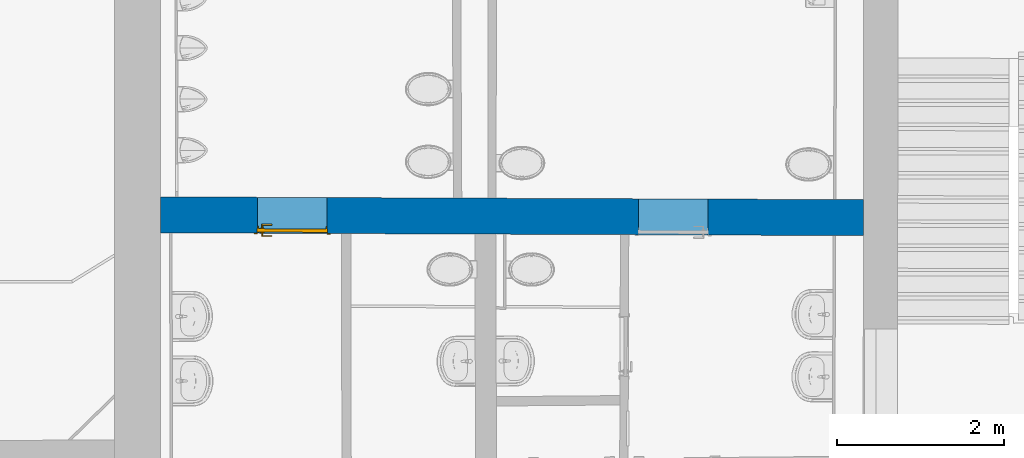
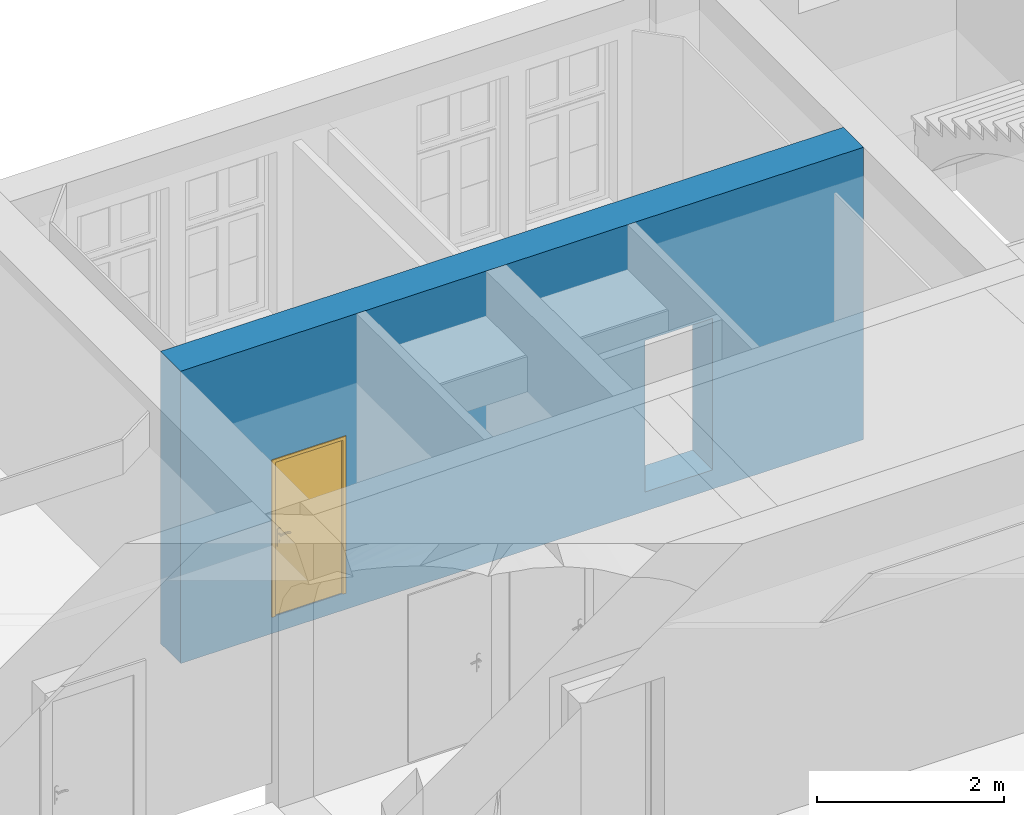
# One storey, part 82 of 158: 1 door, 1 wall, 2 openings.
"""IFC2X3 building model written with IfcOpenShell, lengths in metres."""

from ifc_helpers import new_model, entity, si_unit, converted_unit, derived_unit, money_unit, direction, frame, origin_with_axes, origin_2d_with_axis, place, context, subcontext, project, spatial, polyline, rectangle, outline, extrude, boolean, faceted_brep, material, type_object, element, fill, save


model = new_model("IFC2X3")

# Units and contexts
model_context = context("Model", 3, precision=1e-05, world=origin_with_axes(), true_north=direction((0.0, 1.0)))
body_context = subcontext(model_context, "Body", "Model", "MODEL_VIEW")
ifc_project = project(units=[si_unit("LENGTHUNIT", "METRE"), si_unit("AREAUNIT", "SQUARE_METRE"), si_unit("VOLUMEUNIT", "CUBIC_METRE"), converted_unit("PLANEANGLEUNIT", "DEGREE", entity("IfcPlaneAngleMeasure", 0.0174532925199), si_unit("PLANEANGLEUNIT", "RADIAN"), dimensions=[0, 0, 0, 0, 0, 0, 0]), money_unit("EUR"), converted_unit("TIMEUNIT", "Year", entity("IfcTimeMeasure", 31556926.0), si_unit("TIMEUNIT", "SECOND"), dimensions=[0, 0, 1, 0, 0, 0, 0]), si_unit("MASSUNIT", "GRAM", prefix="KILO"), si_unit("THERMODYNAMICTEMPERATUREUNIT", "DEGREE_CELSIUS"), si_unit("LUMINOUSINTENSITYUNIT", "LUMEN"), si_unit("ENERGYUNIT", "JOULE", prefix="MEGA"), derived_unit("THERMALCONDUCTANCEUNIT", [(si_unit("POWERUNIT", "WATT"), 1), (si_unit("LENGTHUNIT", "METRE"), -1), (si_unit("THERMODYNAMICTEMPERATUREUNIT", "KELVIN"), -1)]), derived_unit("SPECIFICHEATCAPACITYUNIT", [(si_unit("ENERGYUNIT", "JOULE"), 1), (si_unit("MASSUNIT", "GRAM", prefix="KILO"), -1), (si_unit("THERMODYNAMICTEMPERATUREUNIT", "KELVIN"), -1)]), derived_unit("MASSDENSITYUNIT", [(si_unit("MASSUNIT", "GRAM", prefix="KILO"), 1), (si_unit("VOLUMEUNIT", "CUBIC_METRE"), -1)])], contexts=[model_context])

# Site, building, storey
site_placement = place(None, origin_with_axes())
site = spatial("IfcSite", under=ifc_project, at=site_placement, Name="Gelände", CompositionType="ELEMENT")
building_placement = place(site_placement, origin_with_axes())
building = spatial("IfcBuilding", under=site, at=building_placement, Name="Gebäude", CompositionType="ELEMENT")
storey_placement = place(building_placement, origin_with_axes())
storey = spatial("IfcBuildingStorey", under=building, at=storey_placement, Name="ERDGESCHOSS", CompositionType="ELEMENT", Elevation=0.0)

# Wall, openings, door
ifc_material = material(Name="05_ALLGEMEIN - TRAGENDE BAUTEILE")
wall_type = type_object("IfcWallType", Name="05_ALLGEMEIN - TRAGENDE BAUTEILE 430", PredefinedType="ELEMENTEDWALL")
wall_placement = place(storey_placement, frame((12.5396494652, 22.1758858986, -0.210000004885), z_axis=(0.0, 0.0, 1.0), x_axis=(0.999992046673, -0.0039883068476, 0.0)))
wall = element("IfcWall", 1, at=wall_placement, inside=storey, type_object=wall_type, material=ifc_material, Name="Wand-039", ObjectType="ELEMENTEDWALL", context=body_context, shape_type="CSG", body=[
    boolean("DIFFERENCE", boolean("DIFFERENCE", extrude(outline(polyline([(-0.0018147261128, 0.0), (9.3577466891, 0.0), (9.3577466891, 0.43), (-0.0018147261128, 0.43), (-0.0018147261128, 0.0)])), origin_with_axes(), (0.0, 0.0, 1.0), 3.81000000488), faceted_brep([(0.550004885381, 0.0, 2.78243494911e-09), (0.550004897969, 0.0, 3.81000000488), (-0.0018147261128, 0.0, 3.81000000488), (-0.0018147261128, 0.0, 0.0), (0.548190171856, 0.43, 3.81000000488), (0.548190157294, 0.43, 2.48720399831e-09), (-0.0018147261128, 0.43, 3.81000000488), (-0.0018147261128, 0.43, 0.0)], [[[0, 1, 2, 3]], [[4, 1, 0, 5]], [[1, 4, 6, 2]], [[6, 7, 3, 2]], [[5, 0, 3, 7]], [[4, 5, 7, 6]]])), faceted_brep([(8.94659090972, 0.43, 0.0), (8.94659090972, 0.43, 3.81000000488), (9.3577466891, 0.43, 3.81000000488), (9.3577466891, 0.43, 0.0), (8.94774521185, 0.0, 3.81000000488), (8.94774521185, 0.0, 0.0), (9.3577466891, 0.0, 3.81000000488), (9.3577466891, 0.0, 0.0)], [[[0, 1, 2, 3]], [[4, 1, 0, 5]], [[1, 4, 6, 2]], [[6, 7, 3, 2]], [[5, 0, 3, 7]], [[4, 5, 7, 6]]])),
])
opening_1_placement = place(wall_placement, frame((2.12348208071, 0.0, 0.220000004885), z_axis=(0.0, 0.0, 1.0), x_axis=(1.0, 0.0, 0.0)))
opening_1 = element("IfcOpeningElement", 2, at=opening_1_placement, cuts=wall, Name="Tür-022", context=body_context, shape_type="SweptSolid", body=[
    extrude(rectangle(XDim=0.829850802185, YDim=2.00684416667, at=origin_2d_with_axis()), frame((0.0, -0.43, 1.00342208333), z_axis=(0.0, -1.0, 0.0), x_axis=(1.0, 0.0, 0.0)), (0.0, 0.0, -1.0), 1.29),
])
opening_2_placement = place(wall_placement, frame((6.67496092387, 0.0, 0.250000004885), z_axis=(0.0, 0.0, 1.0), x_axis=(1.0, 0.0, 0.0)))
element("IfcOpeningElement", 3, at=opening_2_placement, cuts=wall, Name="Tür-022", context=body_context, shape_type="SweptSolid", body=[
    extrude(rectangle(XDim=0.832133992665, YDim=1.97475383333, at=origin_2d_with_axis()), frame((0.0, -0.43, 0.987376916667), z_axis=(0.0, 1.0, 0.0), x_axis=(-1.0, 0.0, 0.0)), (0.0, 0.0, 1.0), 1.29),
])
door_style = type_object("IfcDoorStyle", Name="Blockrahmentür 1-Fl 25", ConstructionType="NOTDEFINED", OperationType="SINGLE_SWING_LEFT", ParameterTakesPrecedence=False, Sizeable=False)
door_placement = place(opening_1_placement, frame((0.404425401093, 0.0, 0.0), z_axis=(0.0, 0.0, 1.0), x_axis=(-1.0, 0.0, 0.0)))
door = element("IfcDoor", 4, at=door_placement, inside=storey, type_object=door_style, Name="Tür-022", ObjectType="NOTDEFINED", OverallHeight=2.00684, OverallWidth=0.829851, context=body_context, shape_type="Brep", body=[
    faceted_brep([(-0.0105, -0.084, 0.0), (-0.0105, -0.084, 2.00684416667), (-0.0105, -0.054, 2.00684416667), (-0.0105, -0.054, 0.0), (0.0, -0.084, 0.0), (0.0, -0.084, 1.99634416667), (0.289325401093, -0.084, 1.99634416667), (0.404325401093, -0.084, 1.99634416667), (0.808850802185, -0.084, 1.99634416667), (0.808850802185, -0.084, 0.0), (0.819350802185, -0.084, 0.0), (0.819350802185, -0.084, 2.00684416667), (0.819350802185, -0.054, 2.00684416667), (0.819350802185, -0.054, 0.0), (0.808850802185, -0.054, 0.0), (0.808850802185, -0.054, 1.99634416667), (0.404325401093, -0.054, 1.99634416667), (0.289325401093, -0.054, 1.99634416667), (0.0, -0.054, 1.99634416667), (0.0, -0.054, 0.0)], [[[0, 1, 2, 3]], [[0, 4, 5, 6, 7, 8, 9, 10, 11, 1]], [[1, 11, 12, 2]], [[3, 2, 12, 13, 14, 15, 16, 17, 18, 19]], [[4, 0, 3, 19]], [[5, 4, 19, 18]], [[6, 5, 18, 17]], [[7, 6, 17, 16]], [[8, 7, 16, 15]], [[9, 8, 15, 14]], [[10, 9, 14, 13]], [[11, 10, 13, 12]]]),
    faceted_brep([(-0.0105, -0.054, 0.0), (-0.015, -0.054, 0.0), (-0.015, 0.011, 0.0), (-0.0105, 0.011, 0.0), (-0.0105, -0.054, 2.00684416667), (0.819350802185, -0.054, 2.00684416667), (0.819350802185, -0.054, 0.0), (0.823850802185, -0.054, 0.0), (0.823850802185, -0.054, 2.01134416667), (0.389325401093, -0.054, 2.01134416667), (0.304325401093, -0.054, 2.01134416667), (-0.015, -0.054, 2.01134416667), (-0.015, 0.011, 2.01134416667), (0.304325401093, 0.011, 2.01134416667), (0.389325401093, 0.011, 2.01134416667), (0.823850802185, 0.011, 2.01134416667), (0.823850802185, 0.011, 0.0), (0.819350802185, 0.011, 0.0), (0.819350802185, 0.011, 2.00684416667), (-0.0105, 0.011, 2.00684416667)], [[[0, 1, 2, 3]], [[0, 4, 5, 6, 7, 8, 9, 10, 11, 1]], [[1, 11, 12, 2]], [[3, 2, 12, 13, 14, 15, 16, 17, 18, 19]], [[4, 0, 3, 19]], [[5, 4, 19, 18]], [[6, 5, 18, 17]], [[7, 6, 17, 16]], [[8, 7, 16, 15]], [[9, 8, 15, 14]], [[10, 9, 14, 13]], [[11, 10, 13, 12]]]),
    faceted_brep([(-0.0505, 0.0, 0.0), (-0.0505, 0.0, 2.04684416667), (-0.0505, 0.011, 2.04684416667), (-0.0505, 0.011, 0.0), (-0.0105, 0.0, 0.0), (-0.0105, 0.0, 2.00684416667), (0.819350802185, 0.0, 2.00684416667), (0.819350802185, 0.0, 0.0), (0.859350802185, 0.0, 0.0), (0.859350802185, 0.0, 2.04684416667), (0.859350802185, 0.011, 2.04684416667), (0.859350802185, 0.011, 0.0), (0.819350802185, 0.011, 0.0), (0.819350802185, 0.011, 2.00684416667), (-0.0105, 0.011, 2.00684416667), (-0.0105, 0.011, 0.0)], [[[0, 1, 2, 3]], [[0, 4, 5, 6, 7, 8, 9, 1]], [[1, 9, 10, 2]], [[3, 2, 10, 11, 12, 13, 14, 15]], [[4, 0, 3, 15]], [[5, 4, 15, 14]], [[6, 5, 14, 13]], [[7, 6, 13, 12]], [[8, 7, 12, 11]], [[9, 8, 11, 10]]]),
    faceted_brep([(-0.015, -0.014, 0.0), (-0.015, -0.014, 2.01134416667), (0.823850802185, -0.014, 2.01134416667), (0.823850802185, -0.014, 0.0), (-0.015, -0.054, 0.0), (-0.015, -0.054, 2.01134416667), (0.823850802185, -0.054, 2.01134416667), (0.823850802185, -0.054, 0.0)], [[[0, 1, 2, 3]], [[0, 4, 5, 1]], [[1, 5, 6, 2]], [[2, 6, 7, 3]], [[3, 7, 4, 0]], [[7, 6, 5, 4]]]),
    faceted_brep([(0.768553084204, -0.094, 1.05647213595), (0.768553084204, -0.074, 1.05647213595), (0.763850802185, -0.074, 1.058), (0.763850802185, -0.094, 1.058), (0.771459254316, -0.094, 1.05247213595), (0.771459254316, -0.074, 1.05247213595), (0.769728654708, -0.072, 1.05809016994), (0.763850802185, -0.072, 1.06), (0.759148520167, -0.074, 1.05647213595), (0.759148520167, -0.094, 1.05647213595), (0.756242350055, -0.094, 1.05247213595), (0.756242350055, -0.094, 1.04752786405), (0.759148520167, -0.094, 1.04352786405), (0.763850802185, -0.094, 1.042), (0.768553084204, -0.094, 1.04352786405), (0.771459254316, -0.094, 1.04752786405), (0.771459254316, -0.074, 1.04752786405), (0.773361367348, -0.072, 1.05309016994), (0.769728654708, -0.064, 1.05809016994), (0.763850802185, -0.064, 1.06), (0.757972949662, -0.072, 1.05809016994), (0.756242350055, -0.074, 1.05247213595), (0.756242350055, -0.074, 1.04752786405), (0.759148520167, -0.074, 1.04352786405), (0.763850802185, -0.074, 1.042), (0.768553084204, -0.074, 1.04352786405), (0.773361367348, -0.072, 1.04690983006), (0.773361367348, -0.064, 1.05309016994), (0.773361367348, -0.064, 1.04690983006), (0.769728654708, -0.064, 1.04190983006), (0.763850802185, -0.064, 1.04), (0.757972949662, -0.064, 1.04190983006), (0.754340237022, -0.064, 1.04690983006), (0.754340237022, -0.064, 1.05309016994), (0.757972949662, -0.064, 1.05809016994), (0.754340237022, -0.072, 1.05309016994), (0.754340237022, -0.072, 1.04690983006), (0.757972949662, -0.072, 1.04190983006), (0.763850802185, -0.072, 1.04), (0.769728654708, -0.072, 1.04190983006)], [[[0, 1, 2, 3]], [[4, 5, 1, 0]], [[1, 6, 7, 2]], [[3, 2, 8, 9]], [[3, 9, 10, 11, 12, 13, 14, 15, 4, 0]], [[15, 16, 5, 4]], [[5, 17, 6, 1]], [[6, 18, 19, 7]], [[2, 7, 20, 8]], [[9, 8, 21, 10]], [[10, 21, 22, 11]], [[11, 22, 23, 12]], [[12, 23, 24, 13]], [[13, 24, 25, 14]], [[14, 25, 16, 15]], [[16, 26, 17, 5]], [[17, 27, 18, 6]], [[19, 18, 27, 28, 29, 30, 31, 32, 33, 34]], [[7, 19, 34, 20]], [[8, 20, 35, 21]], [[21, 35, 36, 22]], [[22, 36, 37, 23]], [[23, 37, 38, 24]], [[24, 38, 39, 25]], [[25, 39, 26, 16]], [[26, 28, 27, 17]], [[39, 29, 28, 26]], [[38, 30, 29, 39]], [[37, 31, 30, 38]], [[36, 32, 31, 37]], [[35, 33, 32, 36]], [[20, 34, 33, 35]]]),
    faceted_brep([(0.75166241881, -0.064, 1.11759695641), (0.747050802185, -0.064, 1.11), (0.741350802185, -0.064, 1.11), (0.741350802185, -0.064, 0.89), (0.747050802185, -0.064, 0.89), (0.75166241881, -0.064, 0.882403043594), (0.759407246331, -0.064, 0.878044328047), (0.76829435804, -0.064, 0.878044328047), (0.77603918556, -0.064, 0.882403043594), (0.780650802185, -0.064, 0.89), (0.786350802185, -0.064, 0.89), (0.786350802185, -0.064, 1.11), (0.780650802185, -0.064, 1.11), (0.77603918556, -0.064, 1.11759695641), (0.76829435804, -0.064, 1.12195567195), (0.759407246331, -0.064, 1.12195567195), (0.763850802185, -0.064, 0.967425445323), (0.7692259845, -0.064, 0.965143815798), (0.771318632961, -0.064, 0.959692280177), (0.768850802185, -0.064, 0.9544), (0.768850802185, -0.064, 0.9375), (0.767386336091, -0.064, 0.933964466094), (0.763850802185, -0.064, 0.9325), (0.760315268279, -0.064, 0.933964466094), (0.758850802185, -0.064, 0.9375), (0.758850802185, -0.064, 0.9544), (0.75638297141, -0.064, 0.959692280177), (0.75847561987, -0.064, 0.965143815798), (0.75166241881, -0.054, 1.11759695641), (0.747050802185, -0.054, 1.11), (0.741350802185, -0.054, 1.11), (0.741350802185, -0.054, 0.89), (0.747050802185, -0.054, 0.89), (0.75166241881, -0.054, 0.882403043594), (0.759407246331, -0.054, 0.878044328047), (0.76829435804, -0.054, 0.878044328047), (0.77603918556, -0.054, 0.882403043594), (0.780650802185, -0.054, 0.89), (0.786350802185, -0.054, 0.89), (0.786350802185, -0.054, 1.11), (0.780650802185, -0.054, 1.11), (0.77603918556, -0.054, 1.11759695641), (0.76829435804, -0.054, 1.12195567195), (0.759407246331, -0.054, 1.12195567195), (0.763850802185, -0.054, 0.967425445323), (0.7692259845, -0.054, 0.965143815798), (0.771318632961, -0.054, 0.959692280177), (0.768850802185, -0.054, 0.9544), (0.768850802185, -0.054, 0.9375), (0.767386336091, -0.054, 0.933964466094), (0.763850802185, -0.054, 0.9325), (0.760315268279, -0.054, 0.933964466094), (0.758850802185, -0.054, 0.9375), (0.758850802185, -0.054, 0.9544), (0.75638297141, -0.054, 0.959692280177), (0.75847561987, -0.054, 0.965143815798)], [[[0, 1, 2, 3, 4, 5, 6, 7, 8, 9, 10, 11, 12, 13, 14, 15], [16, 17, 18, 19, 20, 21, 22, 23, 24, 25, 26, 27]], [[0, 28, 29, 1]], [[1, 29, 30, 2]], [[2, 30, 31, 3]], [[3, 31, 32, 4]], [[4, 32, 33, 5]], [[5, 33, 34, 6]], [[6, 34, 35, 7]], [[7, 35, 36, 8]], [[8, 36, 37, 9]], [[9, 37, 38, 10]], [[10, 38, 39, 11]], [[11, 39, 40, 12]], [[12, 40, 41, 13]], [[13, 41, 42, 14]], [[14, 42, 43, 15]], [[15, 43, 28, 0]], [[16, 44, 45, 17]], [[17, 45, 46, 18]], [[18, 46, 47, 19]], [[47, 48, 20, 19]], [[21, 20, 48, 49]], [[22, 21, 49, 50]], [[23, 22, 50, 51]], [[24, 23, 51, 52]], [[25, 24, 52, 53]], [[25, 53, 54, 26]], [[26, 54, 55, 27]], [[27, 55, 44, 16]], [[32, 31, 30, 29, 28, 43, 42, 41, 40, 39, 38, 37, 36, 35, 34, 33], [46, 45, 44, 55, 54, 53, 52, 51, 50, 49, 48, 47]]]),
    faceted_brep([(0.649597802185, -0.094, 1.057158), (0.649596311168, -0.094, 1.05719388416), (0.649596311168, -0.109, 1.05719388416), (0.649597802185, -0.109, 1.057158), (0.676625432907, -0.094, 1.06432652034), (0.704453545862, -0.094, 1.06706086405), (0.732359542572, -0.094, 1.06529002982), (0.759618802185, -0.094, 1.05906), (0.766021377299, -0.094, 1.05976125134), (0.771523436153, -0.094, 1.05641280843), (0.773842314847, -0.094, 1.05040385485), (0.772015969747, -0.094, 1.04422735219), (0.76680210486, -0.094, 1.04044577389), (0.760363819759, -0.094, 1.04062800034), (0.75537219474, -0.094, 1.04469843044), (0.755392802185, -0.094, 1.044666), (0.730104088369, -0.094, 1.05019878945), (0.704261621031, -0.094, 1.05171460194), (0.678499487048, -0.094, 1.04917624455), (0.653449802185, -0.094, 1.042646), (0.647906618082, -0.094, 1.04356849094), (0.644545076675, -0.094, 1.04807159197), (0.645236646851, -0.094, 1.05364829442), (0.645236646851, -0.109, 1.05364829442), (0.644545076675, -0.109, 1.04807159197), (0.647906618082, -0.109, 1.04356849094), (0.653449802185, -0.109, 1.042646), (0.678499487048, -0.109, 1.04917624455), (0.704261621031, -0.109, 1.05171460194), (0.730104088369, -0.109, 1.05019878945), (0.755392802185, -0.109, 1.044666), (0.75537219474, -0.109, 1.04469843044), (0.760363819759, -0.109, 1.04062800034), (0.76680210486, -0.109, 1.04044577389), (0.772015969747, -0.109, 1.04422735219), (0.773842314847, -0.109, 1.05040385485), (0.771523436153, -0.109, 1.05641280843), (0.766021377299, -0.109, 1.05976125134), (0.759618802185, -0.109, 1.05906), (0.732359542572, -0.109, 1.06529002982), (0.704453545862, -0.109, 1.06706086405), (0.676625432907, -0.109, 1.06432652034)], [[[0, 1, 2, 3]], [[0, 4, 5, 6, 7, 8, 9, 10, 11, 12, 13, 14, 15, 16, 17, 18, 19, 20, 21, 22, 1]], [[1, 22, 23, 2]], [[3, 2, 23, 24, 25, 26, 27, 28, 29, 30, 31, 32, 33, 34, 35, 36, 37, 38, 39, 40, 41]], [[4, 0, 3, 41]], [[5, 4, 41, 40]], [[6, 5, 40, 39]], [[7, 6, 39, 38]], [[8, 7, 38, 37]], [[9, 8, 37, 36]], [[10, 9, 36, 35]], [[11, 10, 35, 34]], [[12, 11, 34, 33]], [[13, 12, 33, 32]], [[14, 13, 32, 31]], [[15, 14, 31, 30]], [[16, 15, 30, 29]], [[17, 16, 29, 28]], [[18, 17, 28, 27]], [[19, 18, 27, 26]], [[20, 19, 26, 25]], [[21, 20, 25, 24]], [[22, 21, 24, 23]]]),
    faceted_brep([(0.768553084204, 0.026, 1.05647213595), (0.763850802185, 0.026, 1.058), (0.763850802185, 0.006, 1.058), (0.768553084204, 0.006, 1.05647213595), (0.771459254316, 0.026, 1.05247213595), (0.771459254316, 0.026, 1.04752786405), (0.768553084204, 0.026, 1.04352786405), (0.763850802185, 0.026, 1.042), (0.759148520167, 0.026, 1.04352786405), (0.756242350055, 0.026, 1.04752786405), (0.756242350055, 0.026, 1.05247213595), (0.759148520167, 0.026, 1.05647213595), (0.759148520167, 0.006, 1.05647213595), (0.763850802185, 0.004, 1.06), (0.769728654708, 0.004, 1.05809016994), (0.771459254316, 0.006, 1.05247213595), (0.771459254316, 0.006, 1.04752786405), (0.768553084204, 0.006, 1.04352786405), (0.763850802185, 0.006, 1.042), (0.759148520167, 0.006, 1.04352786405), (0.756242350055, 0.006, 1.04752786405), (0.756242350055, 0.006, 1.05247213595), (0.757972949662, 0.004, 1.05809016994), (0.763850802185, -0.004, 1.06), (0.769728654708, -0.004, 1.05809016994), (0.773361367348, 0.004, 1.05309016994), (0.773361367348, 0.004, 1.04690983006), (0.769728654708, 0.004, 1.04190983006), (0.763850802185, 0.004, 1.04), (0.757972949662, 0.004, 1.04190983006), (0.754340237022, 0.004, 1.04690983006), (0.754340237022, 0.004, 1.05309016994), (0.757972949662, -0.004, 1.05809016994), (0.754340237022, -0.004, 1.05309016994), (0.754340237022, -0.004, 1.04690983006), (0.757972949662, -0.004, 1.04190983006), (0.763850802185, -0.004, 1.04), (0.769728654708, -0.004, 1.04190983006), (0.773361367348, -0.004, 1.04690983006), (0.773361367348, -0.004, 1.05309016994)], [[[0, 1, 2, 3]], [[1, 0, 4, 5, 6, 7, 8, 9, 10, 11]], [[1, 11, 12, 2]], [[3, 2, 13, 14]], [[4, 0, 3, 15]], [[5, 4, 15, 16]], [[6, 5, 16, 17]], [[7, 6, 17, 18]], [[8, 7, 18, 19]], [[9, 8, 19, 20]], [[10, 9, 20, 21]], [[11, 10, 21, 12]], [[2, 12, 22, 13]], [[14, 13, 23, 24]], [[15, 3, 14, 25]], [[16, 15, 25, 26]], [[17, 16, 26, 27]], [[18, 17, 27, 28]], [[19, 18, 28, 29]], [[20, 19, 29, 30]], [[21, 20, 30, 31]], [[12, 21, 31, 22]], [[13, 22, 32, 23]], [[23, 32, 33, 34, 35, 36, 37, 38, 39, 24]], [[25, 14, 24, 39]], [[26, 25, 39, 38]], [[27, 26, 38, 37]], [[28, 27, 37, 36]], [[29, 28, 36, 35]], [[30, 29, 35, 34]], [[31, 30, 34, 33]], [[22, 31, 33, 32]]]),
    faceted_brep([(0.75166241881, -0.014, 1.11759695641), (0.747050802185, -0.014, 1.11), (0.741350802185, -0.014, 1.11), (0.741350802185, -0.014, 0.89), (0.747050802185, -0.014, 0.89), (0.75166241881, -0.014, 0.882403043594), (0.759407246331, -0.014, 0.878044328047), (0.76829435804, -0.014, 0.878044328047), (0.77603918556, -0.014, 0.882403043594), (0.780650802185, -0.014, 0.89), (0.786350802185, -0.014, 0.89), (0.786350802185, -0.014, 1.11), (0.780650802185, -0.014, 1.11), (0.77603918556, -0.014, 1.11759695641), (0.76829435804, -0.014, 1.12195567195), (0.759407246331, -0.014, 1.12195567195), (0.763850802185, -0.014, 0.967425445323), (0.7692259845, -0.014, 0.965143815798), (0.771318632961, -0.014, 0.959692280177), (0.768850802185, -0.014, 0.9544), (0.768850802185, -0.014, 0.9375), (0.767386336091, -0.014, 0.933964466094), (0.763850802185, -0.014, 0.9325), (0.760315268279, -0.014, 0.933964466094), (0.758850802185, -0.014, 0.9375), (0.758850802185, -0.014, 0.9544), (0.75638297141, -0.014, 0.959692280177), (0.75847561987, -0.014, 0.965143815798), (0.75166241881, -0.004, 1.11759695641), (0.747050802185, -0.004, 1.11), (0.741350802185, -0.004, 1.11), (0.741350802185, -0.004, 0.89), (0.747050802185, -0.004, 0.89), (0.75166241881, -0.004, 0.882403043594), (0.759407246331, -0.004, 0.878044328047), (0.76829435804, -0.004, 0.878044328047), (0.77603918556, -0.004, 0.882403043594), (0.780650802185, -0.004, 0.89), (0.786350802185, -0.004, 0.89), (0.786350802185, -0.004, 1.11), (0.780650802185, -0.004, 1.11), (0.77603918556, -0.004, 1.11759695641), (0.76829435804, -0.004, 1.12195567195), (0.759407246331, -0.004, 1.12195567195), (0.763850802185, -0.004, 0.967425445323), (0.7692259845, -0.004, 0.965143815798), (0.771318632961, -0.004, 0.959692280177), (0.768850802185, -0.004, 0.9544), (0.768850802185, -0.004, 0.9375), (0.767386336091, -0.004, 0.933964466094), (0.763850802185, -0.004, 0.9325), (0.760315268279, -0.004, 0.933964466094), (0.758850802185, -0.004, 0.9375), (0.758850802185, -0.004, 0.9544), (0.75638297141, -0.004, 0.959692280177), (0.75847561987, -0.004, 0.965143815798)], [[[0, 1, 2, 3, 4, 5, 6, 7, 8, 9, 10, 11, 12, 13, 14, 15], [16, 17, 18, 19, 20, 21, 22, 23, 24, 25, 26, 27]], [[28, 29, 1, 0]], [[29, 30, 2, 1]], [[30, 31, 3, 2]], [[31, 32, 4, 3]], [[32, 33, 5, 4]], [[33, 34, 6, 5]], [[34, 35, 7, 6]], [[35, 36, 8, 7]], [[36, 37, 9, 8]], [[37, 38, 10, 9]], [[38, 39, 11, 10]], [[39, 40, 12, 11]], [[40, 41, 13, 12]], [[41, 42, 14, 13]], [[42, 43, 15, 14]], [[43, 28, 0, 15]], [[16, 44, 45, 17]], [[17, 45, 46, 18]], [[18, 46, 47, 19]], [[47, 48, 20, 19]], [[21, 20, 48, 49]], [[22, 21, 49, 50]], [[23, 22, 50, 51]], [[24, 23, 51, 52]], [[25, 24, 52, 53]], [[25, 53, 54, 26]], [[26, 54, 55, 27]], [[27, 55, 44, 16]], [[32, 31, 30, 29, 28, 43, 42, 41, 40, 39, 38, 37, 36, 35, 34, 33], [46, 45, 44, 55, 54, 53, 52, 51, 50, 49, 48, 47]]]),
    faceted_brep([(0.649597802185, 0.026, 1.057158), (0.649597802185, 0.041, 1.057158), (0.649596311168, 0.041, 1.05719388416), (0.649596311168, 0.026, 1.05719388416), (0.676625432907, 0.026, 1.06432652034), (0.676625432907, 0.041, 1.06432652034), (0.704453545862, 0.041, 1.06706086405), (0.732359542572, 0.041, 1.06529002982), (0.759618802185, 0.041, 1.05906), (0.766021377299, 0.041, 1.05976125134), (0.771523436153, 0.041, 1.05641280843), (0.773842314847, 0.041, 1.05040385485), (0.772015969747, 0.041, 1.04422735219), (0.76680210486, 0.041, 1.04044577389), (0.760363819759, 0.041, 1.04062800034), (0.75537219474, 0.041, 1.04469843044), (0.755392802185, 0.041, 1.044666), (0.730104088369, 0.041, 1.05019878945), (0.704261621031, 0.041, 1.05171460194), (0.678499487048, 0.041, 1.04917624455), (0.653449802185, 0.041, 1.042646), (0.647906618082, 0.041, 1.04356849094), (0.644545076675, 0.041, 1.04807159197), (0.645236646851, 0.041, 1.05364829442), (0.645236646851, 0.026, 1.05364829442), (0.644545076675, 0.026, 1.04807159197), (0.647906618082, 0.026, 1.04356849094), (0.653449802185, 0.026, 1.042646), (0.678499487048, 0.026, 1.04917624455), (0.704261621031, 0.026, 1.05171460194), (0.730104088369, 0.026, 1.05019878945), (0.755392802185, 0.026, 1.044666), (0.75537219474, 0.026, 1.04469843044), (0.760363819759, 0.026, 1.04062800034), (0.76680210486, 0.026, 1.04044577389), (0.772015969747, 0.026, 1.04422735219), (0.773842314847, 0.026, 1.05040385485), (0.771523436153, 0.026, 1.05641280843), (0.766021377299, 0.026, 1.05976125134), (0.759618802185, 0.026, 1.05906), (0.732359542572, 0.026, 1.06529002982), (0.704453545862, 0.026, 1.06706086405)], [[[0, 1, 2, 3]], [[4, 5, 1, 0]], [[1, 5, 6, 7, 8, 9, 10, 11, 12, 13, 14, 15, 16, 17, 18, 19, 20, 21, 22, 23, 2]], [[3, 2, 23, 24]], [[0, 3, 24, 25, 26, 27, 28, 29, 30, 31, 32, 33, 34, 35, 36, 37, 38, 39, 40, 41, 4]], [[41, 6, 5, 4]], [[40, 7, 6, 41]], [[39, 8, 7, 40]], [[38, 9, 8, 39]], [[37, 10, 9, 38]], [[36, 11, 10, 37]], [[35, 12, 11, 36]], [[34, 13, 12, 35]], [[33, 14, 13, 34]], [[32, 15, 14, 33]], [[31, 16, 15, 32]], [[30, 17, 16, 31]], [[29, 18, 17, 30]], [[28, 19, 18, 29]], [[27, 20, 19, 28]], [[26, 21, 20, 27]], [[25, 22, 21, 26]], [[24, 23, 22, 25]]]),
])
fill(opening_1, door)

save(model, "model.ifc")
